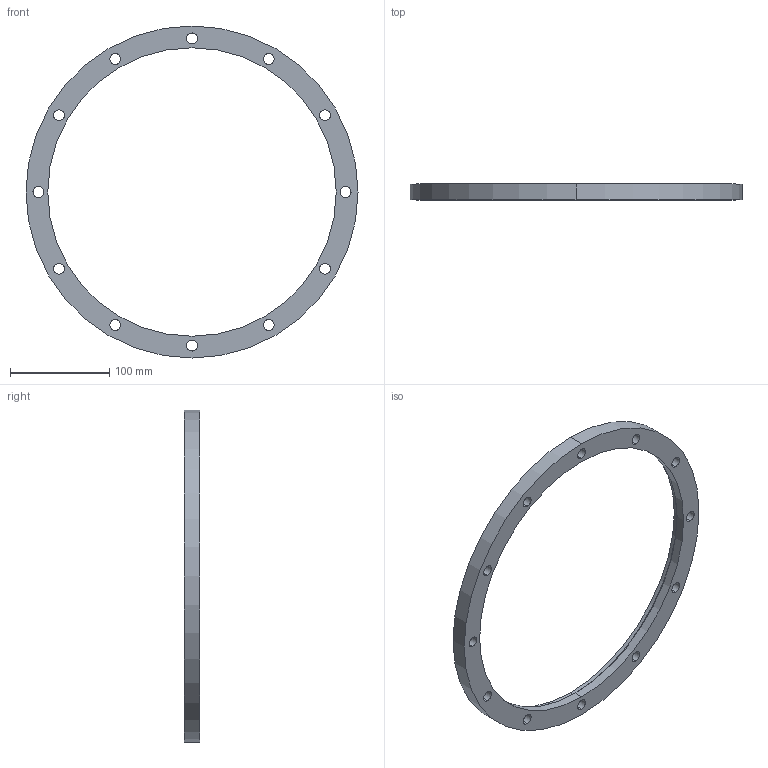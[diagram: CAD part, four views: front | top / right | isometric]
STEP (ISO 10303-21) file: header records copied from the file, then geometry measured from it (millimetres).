
FILE_DESCRIPTION (( 'STEP AP214' ), '1' );
FILE_NAME ('W5UEF250.STEP', '2021-01-27T10:27:03', ( '' ), ( '' ), 'SwSTEP 2.0', 'SolidWorks 2020', '' );
FILE_SCHEMA (( 'AUTOMOTIVE_DESIGN' ));
Length unit declared in the file: millimetre
Products named in the file (1): W5UEF250
Bounding box: 335 x 16 x 335 mm (x, y, z)
Volume: 312630.6 mm3; surface area: 78196.5 mm2
Topology: 1 solids, 1 shells, 35 faces, 94 edges, 62 vertices
Faces by surface type: cylinder 30, plane 3, torus 2
Entity records: 1222 total; most frequent: DIRECTION 230, CARTESIAN_POINT 192, ORIENTED_EDGE 188, AXIS2_PLACEMENT_3D 100, EDGE_CURVE 94, CIRCLE 64, VERTEX_POINT 62, EDGE_LOOP 62
